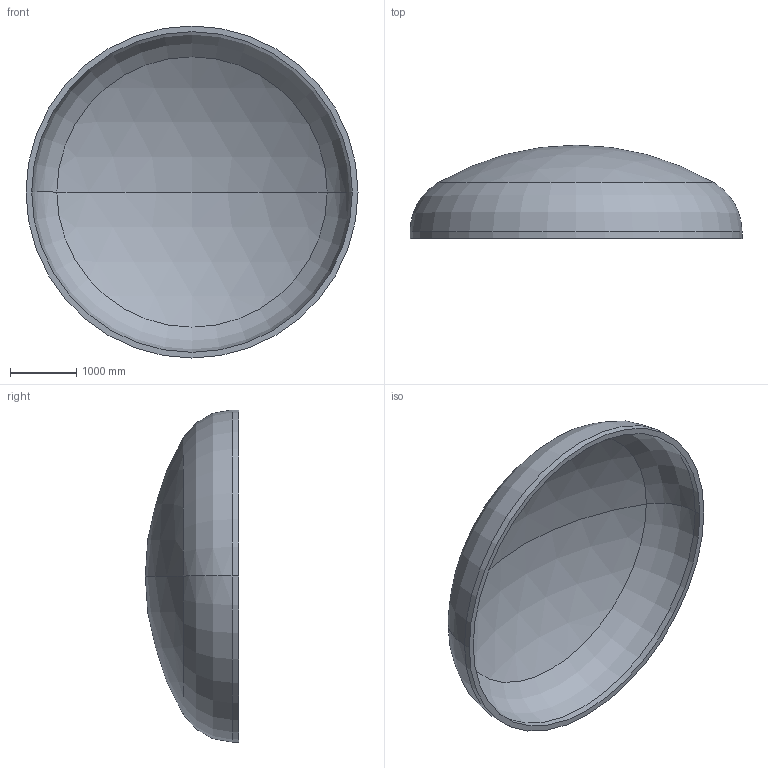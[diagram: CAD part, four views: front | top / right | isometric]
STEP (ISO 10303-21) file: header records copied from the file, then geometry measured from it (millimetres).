
FILE_DESCRIPTION (( 'STEP AP203' ), '1' );
FILE_NAME ('DIN 28013 Korbbogenform_-_Boden DIN 28013 - 5000 x 100 - I - s=86.step', '2016-07-02T00:49:59', ( '' ), ( '' ), 'SwSTEP 2.0', 'SolidWorks 2013', '' );
FILE_SCHEMA (( 'CONFIG_CONTROL_DESIGN' ));
Length unit declared in the file: millimetre
Products named in the file (1): DIN 28013 Korbbogenform_-_Boden DIN 28013 - 5000 x 100 - I - s=86
Bounding box: 5000 x 1405.68 x 5000 mm (x, y, z)
Volume: 2419001943.6 mm3; surface area: 57598978.3 mm2
Topology: 1 solids, 1 shells, 13 faces, 24 edges, 14 vertices
Faces by surface type: torus 4, cylinder 4, sphere 4, plane 1
Entity records: 407 total; most frequent: DIRECTION 72, CARTESIAN_POINT 52, ORIENTED_EDGE 48, AXIS2_PLACEMENT_3D 34, EDGE_CURVE 24, CIRCLE 20, EDGE_LOOP 14, VERTEX_POINT 14
